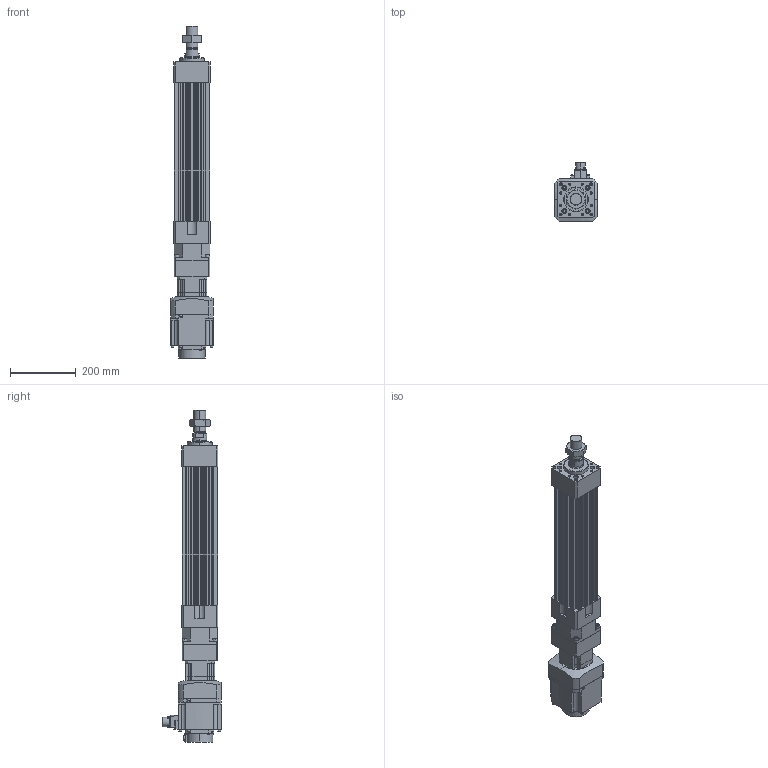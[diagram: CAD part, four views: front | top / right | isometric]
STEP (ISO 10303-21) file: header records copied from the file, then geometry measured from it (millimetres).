
FILE_DESCRIPTION (( 'STEP AP203' ), '1' );
FILE_NAME ('HES110NS(HS)-S250-W010G00-M.STEP', '2023-01-27T04:20:55', ( 'tms' ), ( '' ), 'SwSTEP 2.0', 'SolidWorks 2013', '' );
FILE_SCHEMA (( 'CONFIG_CONTROL_DESIGN' ));
Length unit declared in the file: millimetre
Products named in the file (8): P0401301004; AB090-003[HG-SR102B]; AB0901; M36X1.5P; HG-SR102; HES110-S250-G090; HES110 ROD M ST250; HES110NS(HS)-S250-W010G00-M
Assembly tree (7 placements, depth 3):
  HES110NS(HS)-S250-W010G00-M
    HES110-S250-G090
    HES110 ROD M ST250
    M36X1.5P
    AB090-003[HG-SR102B]
      AB0901
      P0401301004
    HG-SR102
Bounding box: 130 x 177.49 x 1008.5 mm (x, y, z)
Volume: 6485482.8 mm3; surface area: 855010.1 mm2
Topology: 4 solids, 15 shells, 1197 faces, 3018 edges, 1947 vertices
Faces by surface type: plane 550, cylinder 535, cone 100, bspline 8, torus 4
Entity records: 37761 total; most frequent: CARTESIAN_POINT 7330, DIRECTION 6511, ORIENTED_EDGE 5944, EDGE_CURVE 2982, AXIS2_PLACEMENT_3D 2399, VERTEX_POINT 1947, VECTOR 1713, LINE 1713
